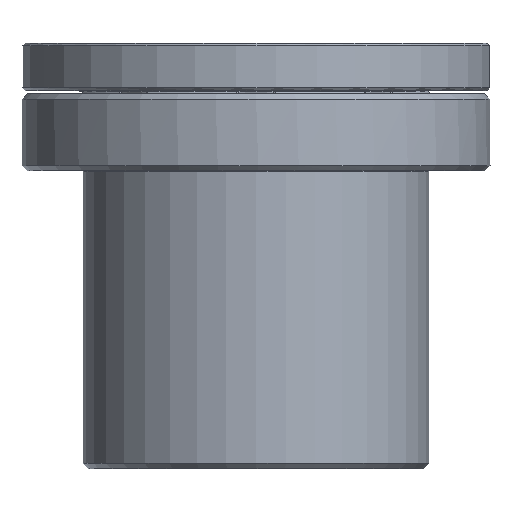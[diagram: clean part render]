
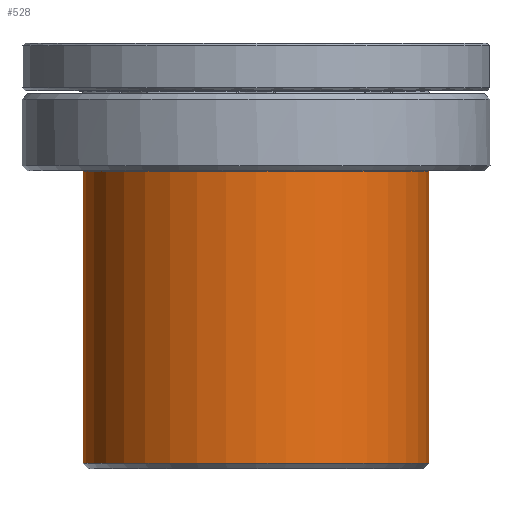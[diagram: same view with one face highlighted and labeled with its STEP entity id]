
A CAD part, left-side view. The second image highlights one B-rep face of the part: STEP entity #528.
In plain terms, the highlighted cylindrical face has radius 32.5 mm (diameter 65 mm), a full revolution.
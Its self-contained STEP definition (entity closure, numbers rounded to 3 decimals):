
#528=ADVANCED_FACE('',(#880,#881),#798,.T.);
#798=CYLINDRICAL_SURFACE('',#4575,32.5);
#880=FACE_BOUND('',#1102,.T.);
#881=FACE_BOUND('',#1103,.T.);
#1102=EDGE_LOOP('',(#2151));
#1103=EDGE_LOOP('',(#2152,#2153));
#1812=CIRCLE('',#4570,32.5);
#1813=CIRCLE('',#4573,32.5);
#1814=CIRCLE('',#4574,32.5);
#2151=ORIENTED_EDGE('',*,*,#3768,.T.);
#2152=ORIENTED_EDGE('',*,*,#3769,.T.);
#2153=ORIENTED_EDGE('',*,*,#3770,.T.);
#3352=VERTEX_POINT('',#6766);
#3353=VERTEX_POINT('',#6770);
#3354=VERTEX_POINT('',#6771);
#3768=EDGE_CURVE('',#3352,#3352,#1812,.T.);
#3769=EDGE_CURVE('',#3353,#3354,#1813,.T.);
#3770=EDGE_CURVE('',#3354,#3353,#1814,.T.);
#4570=AXIS2_PLACEMENT_3D('',#6765,#5146,#5147);
#4573=AXIS2_PLACEMENT_3D('',#6769,#5152,#5153);
#4574=AXIS2_PLACEMENT_3D('',#6772,#5154,#5155);
#4575=AXIS2_PLACEMENT_3D('',#6773,#5156,#5157);
#5146=DIRECTION('',(0.,0.,1.));
#5147=DIRECTION('',(1.,0.,0.));
#5152=DIRECTION('',(0.,0.,-1.));
#5153=DIRECTION('',(0.,-1.,0.));
#5154=DIRECTION('',(0.,0.,-1.));
#5155=DIRECTION('',(0.,-1.,0.));
#5156=DIRECTION('',(0.,0.,1.));
#5157=DIRECTION('',(-1.,0.,0.));
#6765=CARTESIAN_POINT('',(0.,0.,-70.));
#6766=CARTESIAN_POINT('',(32.5,0.,-70.));
#6769=CARTESIAN_POINT('',(0.,0.,-15.071));
#6770=CARTESIAN_POINT('',(-32.5,0.,-15.071));
#6771=CARTESIAN_POINT('',(32.5,0.,-15.071));
#6772=CARTESIAN_POINT('',(0.,0.,-15.071));
#6773=CARTESIAN_POINT('',(0.,0.,-70.));
